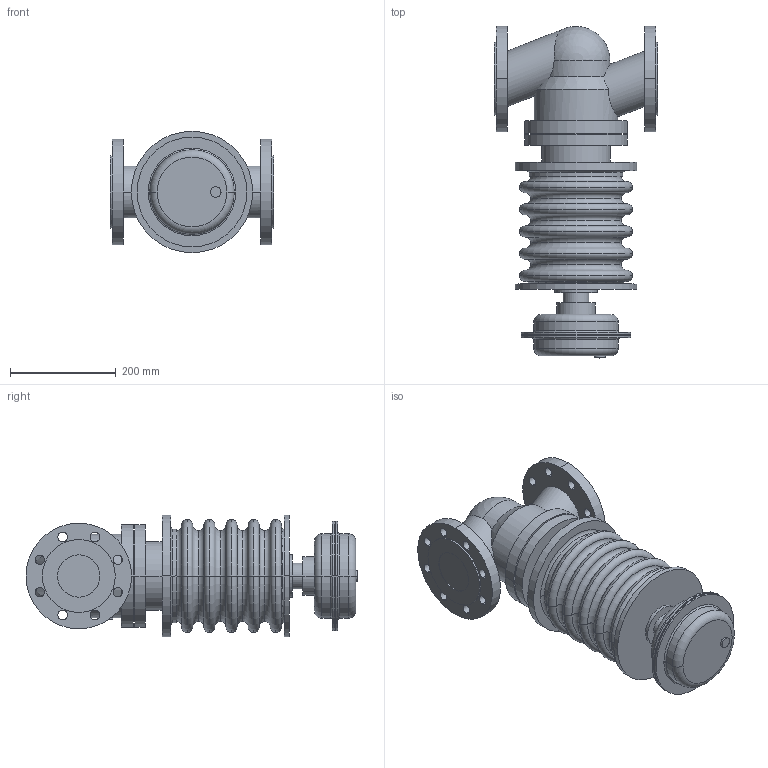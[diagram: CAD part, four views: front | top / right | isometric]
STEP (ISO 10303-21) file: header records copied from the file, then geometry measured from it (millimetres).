
FILE_DESCRIPTION(('OneSpaceDesigner STEP Export'),'2;1');
FILE_NAME('c000000564.stp','2006-08-30T 9:25:26',(''),(''),'OneSpace Designer STEP processor for AP203 (Solid Model)','OneSpace Designer 13.20A 18-Aug-2005 (C) CoCreate Software GmbH','');
FILE_SCHEMA(('CONFIG_CONTROL_DESIGN'));
Length unit declared in the file: millimetre
Products named in the file (1): 2
Bounding box: 310 x 629 x 230 mm (x, y, z)
Volume: 15931222.5 mm3; surface area: 794374.6 mm2
Topology: 1 solids, 1 shells, 181 faces, 421 edges, 266 vertices
Faces by surface type: cylinder 86, torus 50, plane 41, cone 2, sphere 2
Entity records: 4697 total; most frequent: CARTESIAN_POINT 969, ORIENTED_EDGE 838, DIRECTION 661, EDGE_CURVE 419, AXIS2_PLACEMENT_3D 271, VERTEX_POINT 266, EDGE_LOOP 239, FACE_OUTER_BOUND 181
